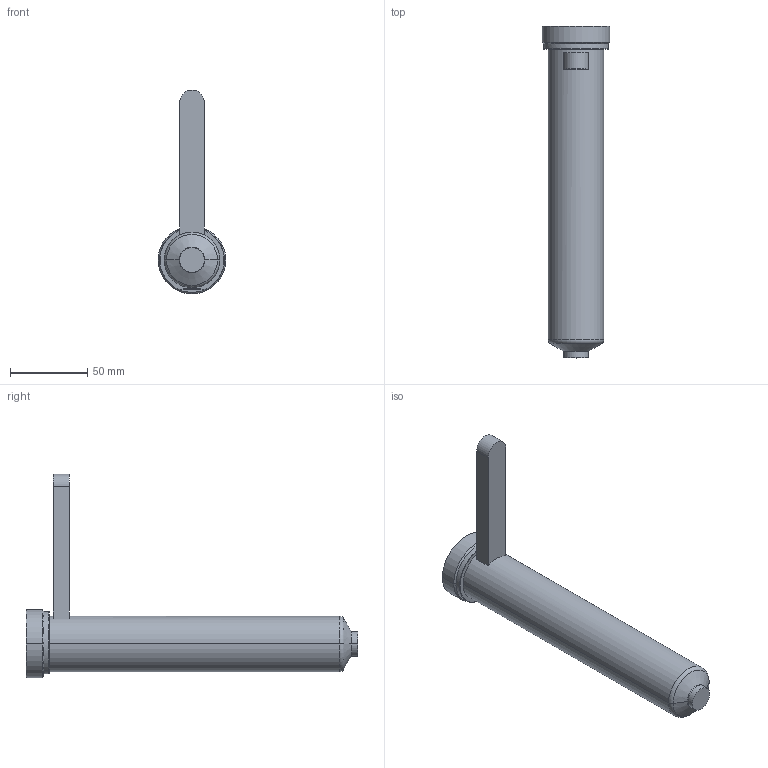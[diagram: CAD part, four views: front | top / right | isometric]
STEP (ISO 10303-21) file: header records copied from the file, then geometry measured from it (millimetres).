
FILE_DESCRIPTION((''),'2;1');
FILE_NAME('EO12_PG-FB_STD_200_COT','2024-02-19T11:38:04',('sundharh'),(''),'CREO PARAMETRIC BY PTC INC, 2023154','CREO PARAMETRIC BY PTC INC, 2023154','');
FILE_SCHEMA(('CONFIG_CONTROL_DESIGN'));
Length unit declared in the file: millimetre
Products named in the file (1): EO12_PG-FB_STD_200_COT
Bounding box: 44 x 215 x 132 mm (x, y, z)
Volume: 234821.9 mm3; surface area: 31582.9 mm2
Topology: 1 solids, 1 shells, 31 faces, 67 edges, 40 vertices
Faces by surface type: cylinder 11, plane 9, torus 7, cone 4
Entity records: 951 total; most frequent: CARTESIAN_POINT 218, DIRECTION 159, ORIENTED_EDGE 134, AXIS2_PLACEMENT_3D 67, EDGE_CURVE 67, VERTEX_POINT 40, CIRCLE 36, EDGE_LOOP 33
